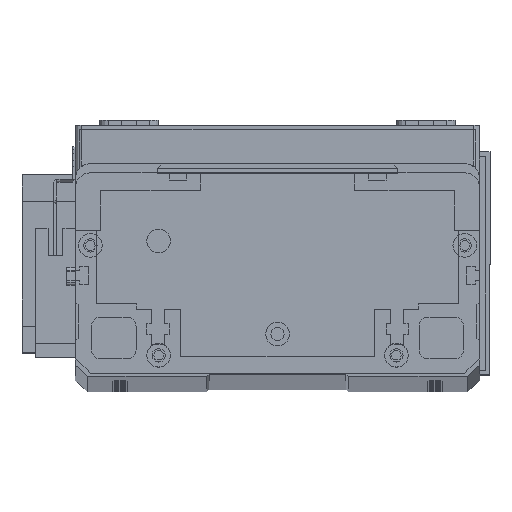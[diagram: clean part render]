
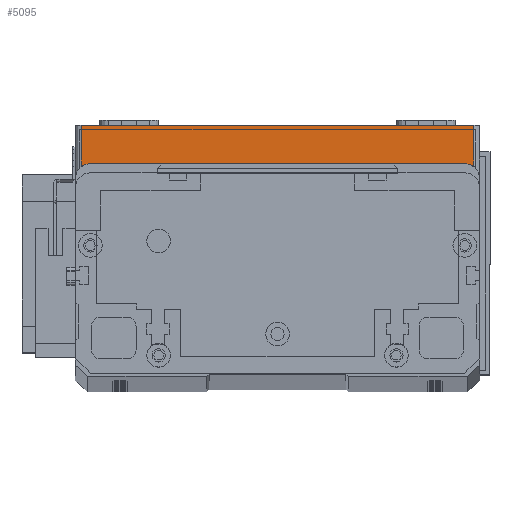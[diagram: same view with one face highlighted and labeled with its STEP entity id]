
A CAD part, top view. The second image highlights one B-rep face of the part: STEP entity #5095.
In plain terms, the highlighted planar face has unit normal (0, 0, 1) as drawn and (0, -1, 0) by its records, which use the part's own axes.
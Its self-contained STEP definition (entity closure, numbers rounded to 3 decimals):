
#840 = VERTEX_POINT ( 'NONE', #4064 ) ;
#907 = DIRECTION ( 'NONE',  ( 1., 0., 0. ) ) ;
#962 = DIRECTION ( 'NONE',  ( 0., 0., 1. ) ) ;
#3745 = EDGE_CURVE ( 'NONE', #18302, #19986, #18959, .T. ) ;
#3835 = ORIENTED_EDGE ( 'NONE', *, *, #12284, .F. ) ;
#4064 = CARTESIAN_POINT ( 'NONE',  ( 2., 0., 19.5 ) ) ;
#5095 = ADVANCED_FACE ( 'NONE', ( #10536 ), #30268, .F. ) ;
#5764 = VERTEX_POINT ( 'NONE', #29817 ) ;
#6532 = EDGE_LOOP ( 'NONE', ( #3835, #10021, #11380, #20791 ) ) ;
#10021 = ORIENTED_EDGE ( 'NONE', *, *, #12770, .T. ) ;
#10384 = LINE ( 'NONE', #21635, #21712 ) ;
#10528 = CARTESIAN_POINT ( 'NONE',  ( 0., 0., 19.5 ) ) ;
#10536 = FACE_OUTER_BOUND ( 'NONE', #6532, .T. ) ;
#11380 = ORIENTED_EDGE ( 'NONE', *, *, #18121, .T. ) ;
#11702 = CARTESIAN_POINT ( 'NONE',  ( 2., 0., 19.5 ) ) ;
#12284 = EDGE_CURVE ( 'NONE', #840, #19986, #17127, .T. ) ;
#12770 = EDGE_CURVE ( 'NONE', #840, #5764, #15589, .T. ) ;
#12795 = CARTESIAN_POINT ( 'NONE',  ( 134., 0., 0. ) ) ;
#15589 = LINE ( 'NONE', #11702, #21975 ) ;
#16814 = DIRECTION ( 'NONE',  ( 1., 0., 0. ) ) ;
#17127 = LINE ( 'NONE', #10528, #22772 ) ;
#18121 = EDGE_CURVE ( 'NONE', #5764, #18302, #10384, .T. ) ;
#18302 = VERTEX_POINT ( 'NONE', #12795 ) ;
#18959 = LINE ( 'NONE', #29005, #24564 ) ;
#19986 = VERTEX_POINT ( 'NONE', #29988 ) ;
#20791 = ORIENTED_EDGE ( 'NONE', *, *, #3745, .T. ) ;
#21635 = CARTESIAN_POINT ( 'NONE',  ( 0., 0., 0. ) ) ;
#21712 = VECTOR ( 'NONE', #16814, 1000. ) ;
#21975 = VECTOR ( 'NONE', #26125, 1000. ) ;
#22772 = VECTOR ( 'NONE', #907, 1000. ) ;
#24564 = VECTOR ( 'NONE', #962, 1000. ) ;
#24833 = DIRECTION ( 'NONE',  ( 0., 0., 1. ) ) ;
#24927 = DIRECTION ( 'NONE',  ( 0., 1., 0. ) ) ;
#26125 = DIRECTION ( 'NONE',  ( 0., 0., -1. ) ) ;
#26951 = CARTESIAN_POINT ( 'NONE',  ( 0., 0., 19.5 ) ) ;
#29005 = CARTESIAN_POINT ( 'NONE',  ( 134., 0., 19.5 ) ) ;
#29760 = AXIS2_PLACEMENT_3D ( 'NONE', #26951, #24927, #24833 ) ;
#29817 = CARTESIAN_POINT ( 'NONE',  ( 2., 0., 0. ) ) ;
#29988 = CARTESIAN_POINT ( 'NONE',  ( 134., 0., 19.5 ) ) ;
#30268 = PLANE ( 'NONE',  #29760 ) ;
